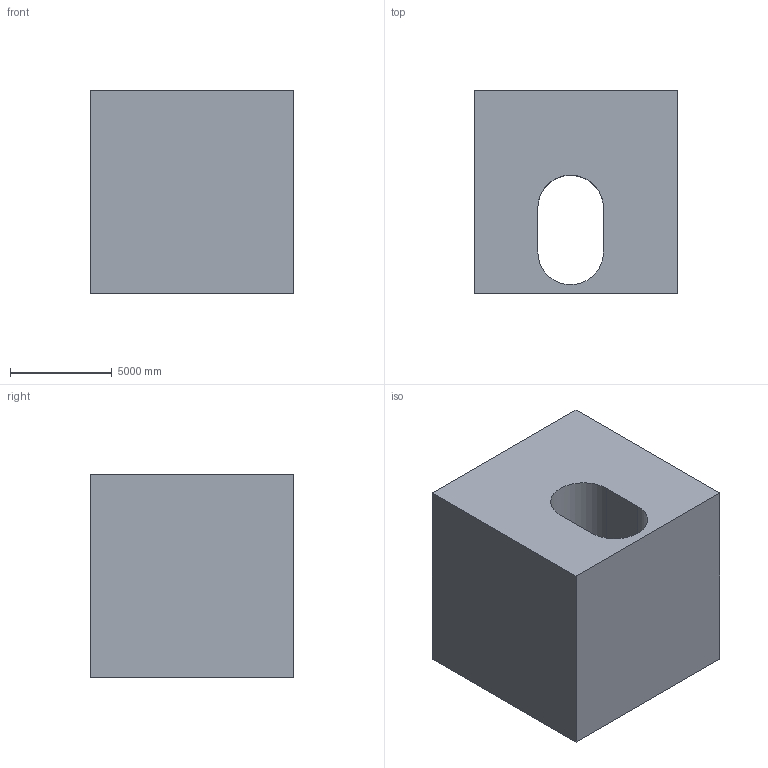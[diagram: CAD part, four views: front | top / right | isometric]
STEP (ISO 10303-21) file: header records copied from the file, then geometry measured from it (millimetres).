
FILE_DESCRIPTION (( 'STEP AP203' ), '1' );
FILE_NAME ('14.STEP', '2022-08-30T14:01:40', ( 'user' ), ( '' ), 'SwSTEP 2.0', 'SolidWorks 2021', '' );
FILE_SCHEMA (( 'CONFIG_CONTROL_DESIGN' ));
Length unit declared in the file: centimetre
Products named in the file (1): 14
Bounding box: 10000 x 10000 x 10000 mm (x, y, z)
Volume: 786753012665.8 mm3; surface area: 757669654.1 mm2
Topology: 1 solids, 1 shells, 14 faces, 39 edges, 26 vertices
Faces by surface type: plane 12, cylinder 2
Entity records: 534 total; most frequent: CARTESIAN_POINT 80, ORIENTED_EDGE 78, DIRECTION 75, EDGE_CURVE 39, LINE 33, VECTOR 33, VERTEX_POINT 26, AXIS2_PLACEMENT_3D 21
